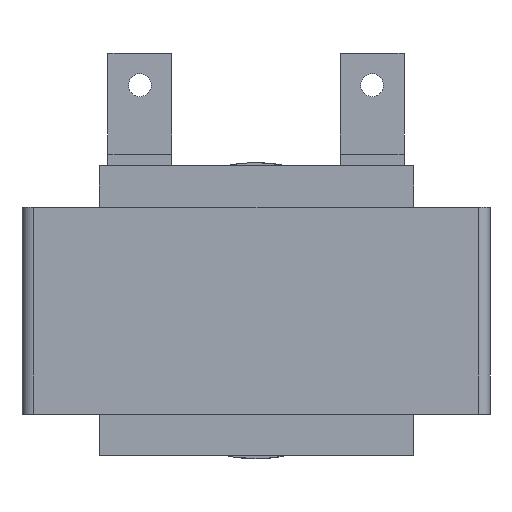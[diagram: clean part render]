
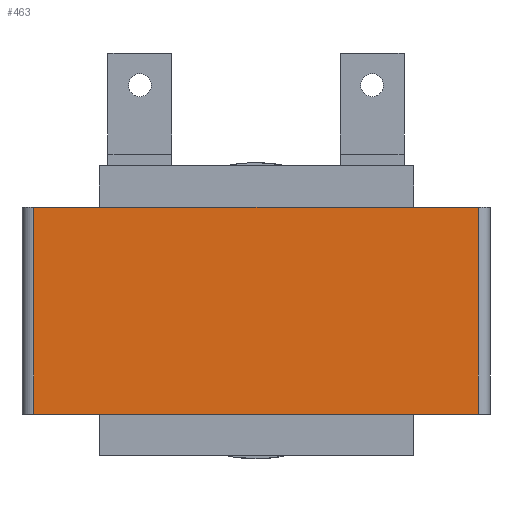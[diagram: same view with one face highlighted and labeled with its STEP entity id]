
A CAD part, front view. The second image highlights one B-rep face of the part: STEP entity #463.
In plain terms, the highlighted planar face has unit normal (0, -1, 0).
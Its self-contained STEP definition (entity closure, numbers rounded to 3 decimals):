
#63 = CARTESIAN_POINT ( 'NONE',  ( 26.43, -6.581, 12.3 ) ) ;
#463 = ADVANCED_FACE ( 'NONE', ( #14410 ), #3415, .F. ) ;
#472 = VECTOR ( 'NONE', #2178, 1000. ) ;
#560 = ORIENTED_EDGE ( 'NONE', *, *, #6931, .F. ) ;
#748 = VERTEX_POINT ( 'NONE', #7448 ) ;
#1141 = DIRECTION ( 'NONE',  ( 1., 0., 0. ) ) ;
#1303 = EDGE_CURVE ( 'NONE', #748, #8691, #8625, .T. ) ;
#1428 = CARTESIAN_POINT ( 'NONE',  ( 26.43, -6.581, 12.3 ) ) ;
#1864 = EDGE_CURVE ( 'NONE', #748, #7606, #7013, .T. ) ;
#2178 = DIRECTION ( 'NONE',  ( 1., 0., 0. ) ) ;
#2521 = EDGE_LOOP ( 'NONE', ( #9642, #560, #11597, #5142 ) ) ;
#3013 = EDGE_CURVE ( 'NONE', #7606, #11059, #3492, .T. ) ;
#3415 = PLANE ( 'NONE',  #11222 ) ;
#3492 = LINE ( 'NONE', #9880, #472 ) ;
#4030 = CARTESIAN_POINT ( 'NONE',  ( -26.43, -6.581, 12.3 ) ) ;
#4125 = CARTESIAN_POINT ( 'NONE',  ( -26.43, -6.581, -12.3 ) ) ;
#4528 = CARTESIAN_POINT ( 'NONE',  ( 26.43, -6.581, 12.3 ) ) ;
#5142 = ORIENTED_EDGE ( 'NONE', *, *, #1864, .T. ) ;
#5722 = DIRECTION ( 'NONE',  ( 0., 0., 1. ) ) ;
#5959 = DIRECTION ( 'NONE',  ( 0., 0., -1. ) ) ;
#6825 = CARTESIAN_POINT ( 'NONE',  ( 26.43, -6.581, -12.3 ) ) ;
#6899 = DIRECTION ( 'NONE',  ( 0., 1., 0. ) ) ;
#6931 = EDGE_CURVE ( 'NONE', #8691, #11059, #9722, .T. ) ;
#7013 = LINE ( 'NONE', #4030, #13008 ) ;
#7448 = CARTESIAN_POINT ( 'NONE',  ( -26.43, -6.581, 12.3 ) ) ;
#7606 = VERTEX_POINT ( 'NONE', #4125 ) ;
#8144 = CARTESIAN_POINT ( 'NONE',  ( 26.43, -6.581, 12.3 ) ) ;
#8625 = LINE ( 'NONE', #63, #10747 ) ;
#8691 = VERTEX_POINT ( 'NONE', #8144 ) ;
#9642 = ORIENTED_EDGE ( 'NONE', *, *, #3013, .T. ) ;
#9722 = LINE ( 'NONE', #1428, #14284 ) ;
#9880 = CARTESIAN_POINT ( 'NONE',  ( 26.43, -6.581, -12.3 ) ) ;
#10747 = VECTOR ( 'NONE', #1141, 1000. ) ;
#11059 = VERTEX_POINT ( 'NONE', #6825 ) ;
#11222 = AXIS2_PLACEMENT_3D ( 'NONE', #4528, #6899, #5722 ) ;
#11597 = ORIENTED_EDGE ( 'NONE', *, *, #1303, .F. ) ;
#12998 = DIRECTION ( 'NONE',  ( 0., 0., -1. ) ) ;
#13008 = VECTOR ( 'NONE', #12998, 1000. ) ;
#14284 = VECTOR ( 'NONE', #5959, 1000. ) ;
#14410 = FACE_OUTER_BOUND ( 'NONE', #2521, .T. ) ;
